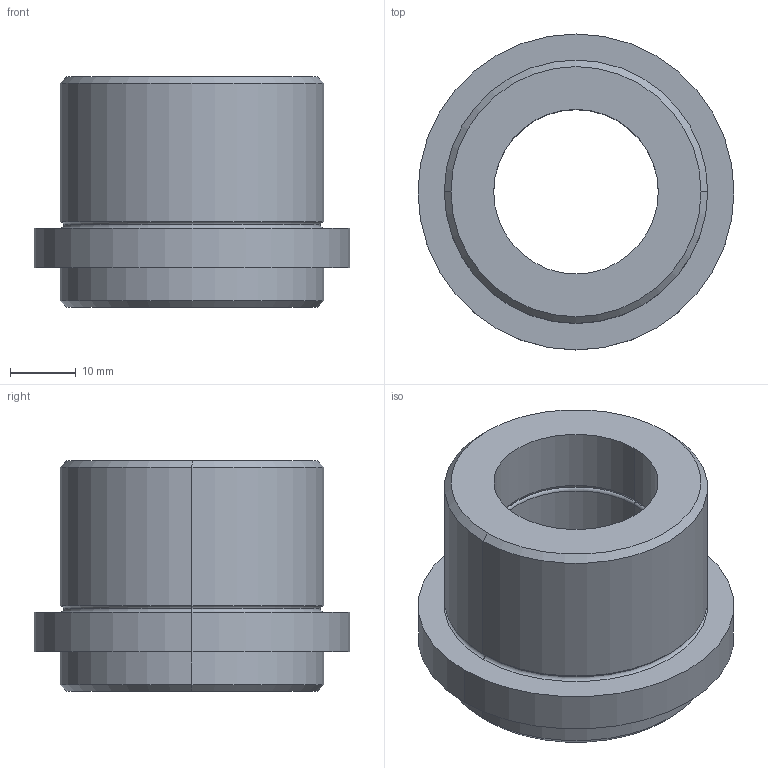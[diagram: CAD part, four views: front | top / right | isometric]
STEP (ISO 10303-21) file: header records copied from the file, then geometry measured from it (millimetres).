
FILE_DESCRIPTION (( 'STEP AP214' ), '1' );
FILE_NAME ('Casquillo SB500-25-35.STEP', '2018-11-26T12:56:13', ( '' ), ( '' ), 'SwSTEP 2.0', 'SolidWorks 2018', '' );
FILE_SCHEMA (( 'AUTOMOTIVE_DESIGN' ));
Length unit declared in the file: millimetre
Products named in the file (1): Casquillo SB500-25-35
Bounding box: 48 x 48 x 35 mm (x, y, z)
Volume: 29929.8 mm3; surface area: 9947.3 mm2
Topology: 1 solids, 1 shells, 32 faces, 64 edges, 36 vertices
Faces by surface type: torus 12, cylinder 12, cone 4, plane 4
Entity records: 874 total; most frequent: DIRECTION 178, CARTESIAN_POINT 133, ORIENTED_EDGE 128, AXIS2_PLACEMENT_3D 81, EDGE_CURVE 64, CIRCLE 48, EDGE_LOOP 36, VERTEX_POINT 36
